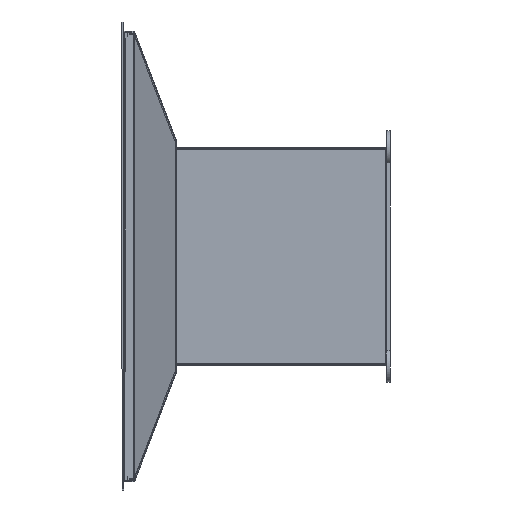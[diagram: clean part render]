
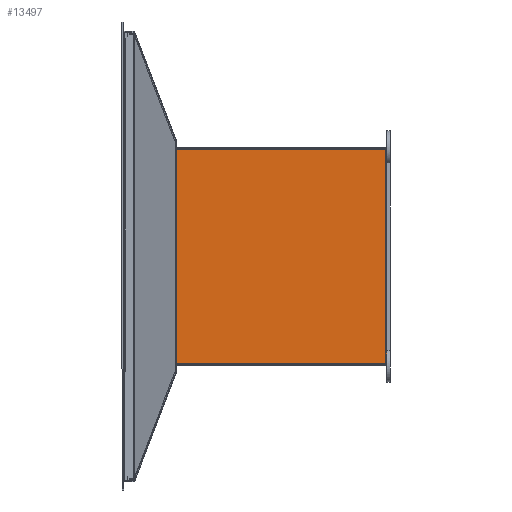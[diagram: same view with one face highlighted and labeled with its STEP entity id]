
A CAD part, left-side view. The second image highlights one B-rep face of the part: STEP entity #13497.
In plain terms, the highlighted planar face has unit normal (-1, 0, 0).
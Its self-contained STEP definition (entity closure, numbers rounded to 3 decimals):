
#196 = VECTOR ( 'NONE', #2743, 1000. ) ;
#473 = EDGE_CURVE ( 'NONE', #14765, #14653, #15043, .T. ) ;
#698 = DIRECTION ( 'NONE',  ( 1., 0., 0. ) ) ;
#871 = VECTOR ( 'NONE', #15201, 1000. ) ;
#981 = CARTESIAN_POINT ( 'NONE',  ( -324., 70.413, 145. ) ) ;
#1027 = VECTOR ( 'NONE', #19721, 1000. ) ;
#1068 = ORIENTED_EDGE ( 'NONE', *, *, #6728, .F. ) ;
#1090 = EDGE_CURVE ( 'NONE', #14653, #5867, #4151, .T. ) ;
#1286 = LINE ( 'NONE', #981, #8833 ) ;
#1466 = AXIS2_PLACEMENT_3D ( 'NONE', #8486, #698, #15436 ) ;
#1553 = ORIENTED_EDGE ( 'NONE', *, *, #1090, .F. ) ;
#1832 = CARTESIAN_POINT ( 'NONE',  ( -324., 7.572, -144.119 ) ) ;
#2743 = DIRECTION ( 'NONE',  ( 0., 0., 1. ) ) ;
#2881 = CARTESIAN_POINT ( 'NONE',  ( -324., 6., 128.229 ) ) ;
#3002 = EDGE_CURVE ( 'NONE', #13222, #5034, #1286, .T. ) ;
#3017 = LINE ( 'NONE', #3120, #13440 ) ;
#3120 = CARTESIAN_POINT ( 'NONE',  ( -324., 6., 0. ) ) ;
#3619 = CARTESIAN_POINT ( 'NONE',  ( -324., 6., -142.5 ) ) ;
#4008 = ORIENTED_EDGE ( 'NONE', *, *, #3002, .F. ) ;
#4151 = LINE ( 'NONE', #19131, #18058 ) ;
#4677 = CARTESIAN_POINT ( 'NONE',  ( -324., -0.4, -142.5 ) ) ;
#4714 = CARTESIAN_POINT ( 'NONE',  ( -324., 7.25, 145. ) ) ;
#4751 = EDGE_CURVE ( 'NONE', #15323, #7807, #6660, .T. ) ;
#5034 = VERTEX_POINT ( 'NONE', #4714 ) ;
#5429 = DIRECTION ( 'NONE',  ( 0., -1., 0. ) ) ;
#5867 = VERTEX_POINT ( 'NONE', #2881 ) ;
#5953 = DIRECTION ( 'NONE',  ( 0., 0., -1. ) ) ;
#6105 = DIRECTION ( 'NONE',  ( 0., 0., -1. ) ) ;
#6578 = ORIENTED_EDGE ( 'NONE', *, *, #9408, .F. ) ;
#6660 = LINE ( 'NONE', #13175, #1027 ) ;
#6728 = EDGE_CURVE ( 'NONE', #11662, #15323, #13269, .T. ) ;
#6857 = CARTESIAN_POINT ( 'NONE',  ( -324., 6., 0. ) ) ;
#7492 = ORIENTED_EDGE ( 'NONE', *, *, #16258, .T. ) ;
#7807 = VERTEX_POINT ( 'NONE', #11467 ) ;
#8486 = CARTESIAN_POINT ( 'NONE',  ( -324., -6.8, 0. ) ) ;
#8833 = VECTOR ( 'NONE', #14307, 1000. ) ;
#8879 = VECTOR ( 'NONE', #12593, 1000. ) ;
#8889 = CARTESIAN_POINT ( 'NONE',  ( -324., 7.393, 144.551 ) ) ;
#9173 = LINE ( 'NONE', #4677, #8879 ) ;
#9350 = CARTESIAN_POINT ( 'NONE',  ( -324., 286., 145. ) ) ;
#9408 = EDGE_CURVE ( 'NONE', #7807, #13222, #14264, .T. ) ;
#9413 = CARTESIAN_POINT ( 'NONE',  ( -324., 6., 142.5 ) ) ;
#9692 = EDGE_CURVE ( 'NONE', #14765, #5034, #15470, .T. ) ;
#9941 = CARTESIAN_POINT ( 'NONE',  ( -324., 7.393, -144.551 ) ) ;
#10406 = FACE_OUTER_BOUND ( 'NONE', #10790, .T. ) ;
#10713 = VERTEX_POINT ( 'NONE', #14902 ) ;
#10781 = ORIENTED_EDGE ( 'NONE', *, *, #14650, .F. ) ;
#10790 = EDGE_LOOP ( 'NONE', ( #6578, #14215, #1068, #7492, #10781, #15869, #1553, #16141, #20641, #4008 ) ) ;
#10947 = CARTESIAN_POINT ( 'NONE',  ( -324., 8.5, 142.5 ) ) ;
#11181 = EDGE_CURVE ( 'NONE', #5867, #10713, #11989, .T. ) ;
#11467 = CARTESIAN_POINT ( 'NONE',  ( -324., 286., -145. ) ) ;
#11545 = CARTESIAN_POINT ( 'NONE',  ( -324., 8.5, -142.5 ) ) ;
#11662 = VERTEX_POINT ( 'NONE', #15004 ) ;
#11939 = CARTESIAN_POINT ( 'NONE',  ( -324., 0.225, 142.5 ) ) ;
#11989 = LINE ( 'NONE', #6857, #871 ) ;
#12593 = DIRECTION ( 'NONE',  ( 0., -1., 0. ) ) ;
#13175 = CARTESIAN_POINT ( 'NONE',  ( -324., 70.413, -145. ) ) ;
#13222 = VERTEX_POINT ( 'NONE', #9350 ) ;
#13269 = B_SPLINE_CURVE_WITH_KNOTS ( 'NONE', 3,
 ( #11545, #17882, #18090, #1832, #9941, #16466 ),
 .UNSPECIFIED., .F., .F.,
 ( 4, 2, 4 ),
 ( 0., 0.001, 0.003 ),
 .UNSPECIFIED. ) ;
#13440 = VECTOR ( 'NONE', #6105, 1000. ) ;
#13497 = ADVANCED_FACE ( 'NONE', ( #10406 ), #16942, .F. ) ;
#13903 = CARTESIAN_POINT ( 'NONE',  ( -324., 8.5, 142.5 ) ) ;
#14215 = ORIENTED_EDGE ( 'NONE', *, *, #4751, .F. ) ;
#14264 = LINE ( 'NONE', #17275, #196 ) ;
#14307 = DIRECTION ( 'NONE',  ( 0., -1., 0. ) ) ;
#14483 = VECTOR ( 'NONE', #5429, 1000. ) ;
#14650 = EDGE_CURVE ( 'NONE', #10713, #17160, #3017, .T. ) ;
#14653 = VERTEX_POINT ( 'NONE', #9413 ) ;
#14765 = VERTEX_POINT ( 'NONE', #10947 ) ;
#14902 = CARTESIAN_POINT ( 'NONE',  ( -324., 6., -128.229 ) ) ;
#15004 = CARTESIAN_POINT ( 'NONE',  ( -324., 8.5, -142.5 ) ) ;
#15043 = LINE ( 'NONE', #11939, #14483 ) ;
#15201 = DIRECTION ( 'NONE',  ( 0., 0., -1. ) ) ;
#15323 = VERTEX_POINT ( 'NONE', #19217 ) ;
#15436 = DIRECTION ( 'NONE',  ( 0., 0., 1. ) ) ;
#15470 = B_SPLINE_CURVE_WITH_KNOTS ( 'NONE', 3,
 ( #13903, #20452, #16918, #20142, #8889, #15512 ),
 .UNSPECIFIED., .F., .F.,
 ( 4, 2, 4 ),
 ( 0., 0.001, 0.003 ),
 .UNSPECIFIED. ) ;
#15512 = CARTESIAN_POINT ( 'NONE',  ( -324., 7.25, 145. ) ) ;
#15869 = ORIENTED_EDGE ( 'NONE', *, *, #11181, .F. ) ;
#16141 = ORIENTED_EDGE ( 'NONE', *, *, #473, .F. ) ;
#16258 = EDGE_CURVE ( 'NONE', #11662, #17160, #9173, .T. ) ;
#16466 = CARTESIAN_POINT ( 'NONE',  ( -324., 7.25, -145. ) ) ;
#16918 = CARTESIAN_POINT ( 'NONE',  ( -324., 7.999, 143.291 ) ) ;
#16942 = PLANE ( 'NONE',  #1466 ) ;
#17160 = VERTEX_POINT ( 'NONE', #3619 ) ;
#17275 = CARTESIAN_POINT ( 'NONE',  ( -324., 286., 0. ) ) ;
#17882 = CARTESIAN_POINT ( 'NONE',  ( -324., 8.248, -142.895 ) ) ;
#18058 = VECTOR ( 'NONE', #5953, 1000. ) ;
#18090 = CARTESIAN_POINT ( 'NONE',  ( -324., 7.999, -143.291 ) ) ;
#19131 = CARTESIAN_POINT ( 'NONE',  ( -324., 6., 0. ) ) ;
#19217 = CARTESIAN_POINT ( 'NONE',  ( -324., 7.25, -145. ) ) ;
#19721 = DIRECTION ( 'NONE',  ( 0., 1., 0. ) ) ;
#20142 = CARTESIAN_POINT ( 'NONE',  ( -324., 7.572, 144.119 ) ) ;
#20452 = CARTESIAN_POINT ( 'NONE',  ( -324., 8.248, 142.895 ) ) ;
#20641 = ORIENTED_EDGE ( 'NONE', *, *, #9692, .T. ) ;
